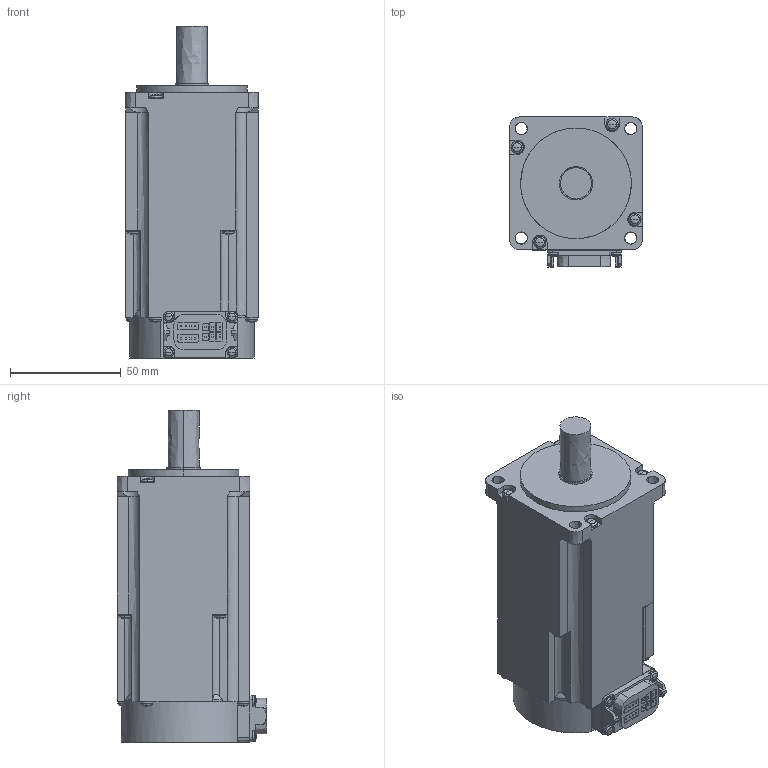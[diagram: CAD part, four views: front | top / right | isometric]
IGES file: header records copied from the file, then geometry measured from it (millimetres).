
Start section:  PTC IGES file: hk-kt43wb_-_asm.igs
Global section: file name: hk-kt43wb_-_asm.igs; native system: Creo Parametric by PTC Inc.; preprocessor: 2016380; author: XE90682; organization: Unknown; date: 20190116.104022; units: millimetre
Bounding box: 60 x 67.65 x 150.1 mm (x, y, z)
Volume: 383597.5 mm3; surface area: 37362.6 mm2
Topology: 1 solids, 1 shells, 401 faces, 1042 edges, 654 vertices
Faces by surface type: bspline 401
